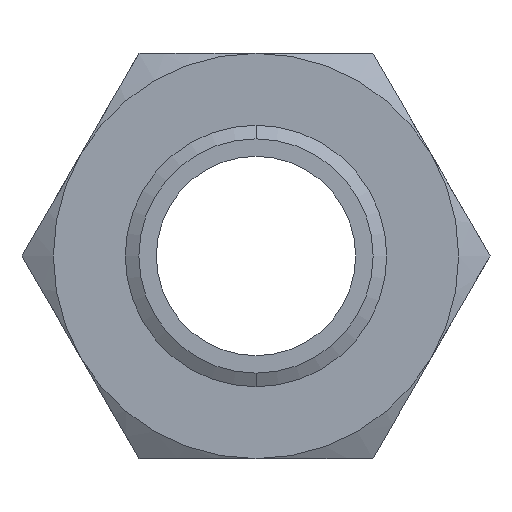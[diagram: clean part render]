
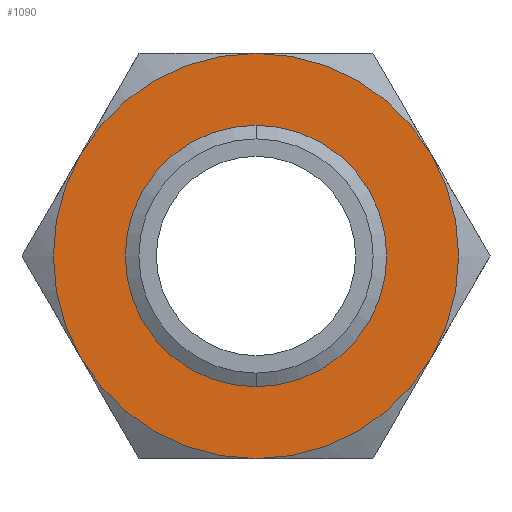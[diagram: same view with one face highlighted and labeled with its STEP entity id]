
A CAD part, front view. The second image highlights one B-rep face of the part: STEP entity #1090.
In plain terms, the highlighted planar face has unit normal (0, -1, 0).
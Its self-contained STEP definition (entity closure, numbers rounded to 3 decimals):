
#351 = ORIENTED_EDGE ( 'NONE', *, *, #704, .F. ) ;
#413 = VERTEX_POINT ( 'NONE', #1542 ) ;
#618 = ORIENTED_EDGE ( 'NONE', *, *, #1158, .F. ) ;
#704 = EDGE_CURVE ( 'NONE', #1179, #1159, #1763, .T. ) ;
#1011 = EDGE_LOOP ( 'NONE', ( #618, #351 ) ) ;
#1014 = EDGE_CURVE ( 'NONE', #1098, #1206, #1739, .T. ) ;
#1071 = EDGE_LOOP ( 'NONE', ( #1142, #1121, #1096, #1208, #1198, #1199 ) ) ;
#1090 = ADVANCED_FACE ( 'NONE', ( #1876, #1875 ), #1874, .F. ) ;
#1093 = VERTEX_POINT ( 'NONE', #1868 ) ;
#1096 = ORIENTED_EDGE ( 'NONE', *, *, #1117, .F. ) ;
#1098 = VERTEX_POINT ( 'NONE', #1859 ) ;
#1099 = VERTEX_POINT ( 'NONE', #1858 ) ;
#1117 = EDGE_CURVE ( 'NONE', #413, #1093, #1949, .T. ) ;
#1121 = ORIENTED_EDGE ( 'NONE', *, *, #1125, .F. ) ;
#1125 = EDGE_CURVE ( 'NONE', #1093, #1099, #1936, .T. ) ;
#1142 = ORIENTED_EDGE ( 'NONE', *, *, #1143, .F. ) ;
#1143 = EDGE_CURVE ( 'NONE', #1099, #1098, #1958, .T. ) ;
#1158 = EDGE_CURVE ( 'NONE', #1159, #1179, #1993, .T. ) ;
#1159 = VERTEX_POINT ( 'NONE', #1988 ) ;
#1179 = VERTEX_POINT ( 'NONE', #2066 ) ;
#1195 = EDGE_CURVE ( 'NONE', #1206, #1196, #2100, .T. ) ;
#1196 = VERTEX_POINT ( 'NONE', #2101 ) ;
#1198 = ORIENTED_EDGE ( 'NONE', *, *, #1195, .F. ) ;
#1199 = ORIENTED_EDGE ( 'NONE', *, *, #1014, .F. ) ;
#1205 = EDGE_CURVE ( 'NONE', #1196, #413, #2087, .T. ) ;
#1206 = VERTEX_POINT ( 'NONE', #2083 ) ;
#1208 = ORIENTED_EDGE ( 'NONE', *, *, #1205, .F. ) ;
#1542 = CARTESIAN_POINT ( 'NONE',  ( -67.117, 0., -38.75 ) ) ;
#1735 = DIRECTION ( 'NONE',  ( 0., 0., 1. ) ) ;
#1736 = DIRECTION ( 'NONE',  ( 0., 1., 0. ) ) ;
#1737 = CARTESIAN_POINT ( 'NONE',  ( 0., 0., 0. ) ) ;
#1738 = AXIS2_PLACEMENT_3D ( 'NONE', #1737, #1736, #1735 ) ;
#1739 = CIRCLE ( 'NONE', #1738, 77.5 ) ;
#1759 = DIRECTION ( 'NONE',  ( 0., 0., -1. ) ) ;
#1760 = DIRECTION ( 'NONE',  ( 0., -1., 0. ) ) ;
#1761 = CARTESIAN_POINT ( 'NONE',  ( 0., 0., 0. ) ) ;
#1762 = AXIS2_PLACEMENT_3D ( 'NONE', #1761, #1760, #1759 ) ;
#1763 = CIRCLE ( 'NONE', #1762, 44.804 ) ;
#1858 = CARTESIAN_POINT ( 'NONE',  ( 0., 0., 77.5 ) ) ;
#1859 = CARTESIAN_POINT ( 'NONE',  ( 67.117, 0., 38.75 ) ) ;
#1868 = CARTESIAN_POINT ( 'NONE',  ( -67.117, 0., 38.75 ) ) ;
#1870 = DIRECTION ( 'NONE',  ( 0., 0., 1. ) ) ;
#1871 = DIRECTION ( 'NONE',  ( 0., 1., 0. ) ) ;
#1872 = CARTESIAN_POINT ( 'NONE',  ( 44.745, 0., -77.5 ) ) ;
#1873 = AXIS2_PLACEMENT_3D ( 'NONE', #1872, #1871, #1870 ) ;
#1874 = PLANE ( 'NONE',  #1873 ) ;
#1875 = FACE_BOUND ( 'NONE', #1011, .T. ) ;
#1876 = FACE_OUTER_BOUND ( 'NONE', #1071, .T. ) ;
#1933 = DIRECTION ( 'NONE',  ( 0., 0., 1. ) ) ;
#1934 = DIRECTION ( 'NONE',  ( 0., 1., 0. ) ) ;
#1935 = AXIS2_PLACEMENT_3D ( 'NONE', #1942, #1934, #1933 ) ;
#1936 = CIRCLE ( 'NONE', #1935, 77.5 ) ;
#1942 = CARTESIAN_POINT ( 'NONE',  ( 0., 0., 0. ) ) ;
#1945 = DIRECTION ( 'NONE',  ( 0., 0., 1. ) ) ;
#1946 = DIRECTION ( 'NONE',  ( 0., 1., 0. ) ) ;
#1947 = CARTESIAN_POINT ( 'NONE',  ( 0., 0., 0. ) ) ;
#1948 = AXIS2_PLACEMENT_3D ( 'NONE', #1947, #1946, #1945 ) ;
#1949 = CIRCLE ( 'NONE', #1948, 77.5 ) ;
#1954 = DIRECTION ( 'NONE',  ( 0., 0., 1. ) ) ;
#1955 = DIRECTION ( 'NONE',  ( 0., 1., 0. ) ) ;
#1956 = CARTESIAN_POINT ( 'NONE',  ( 0., 0., 0. ) ) ;
#1957 = AXIS2_PLACEMENT_3D ( 'NONE', #1956, #1955, #1954 ) ;
#1958 = CIRCLE ( 'NONE', #1957, 77.5 ) ;
#1988 = CARTESIAN_POINT ( 'NONE',  ( 0., 0., -44.804 ) ) ;
#1989 = DIRECTION ( 'NONE',  ( 0., 0., -1. ) ) ;
#1990 = DIRECTION ( 'NONE',  ( 0., -1., 0. ) ) ;
#1991 = CARTESIAN_POINT ( 'NONE',  ( 0., 0., 0. ) ) ;
#1992 = AXIS2_PLACEMENT_3D ( 'NONE', #1991, #1990, #1989 ) ;
#1993 = CIRCLE ( 'NONE', #1992, 44.804 ) ;
#2066 = CARTESIAN_POINT ( 'NONE',  ( 0., 0., 44.804 ) ) ;
#2079 = DIRECTION ( 'NONE',  ( 0., 0., 1. ) ) ;
#2080 = DIRECTION ( 'NONE',  ( 0., 1., 0. ) ) ;
#2081 = CARTESIAN_POINT ( 'NONE',  ( 0., 0., 0. ) ) ;
#2082 = AXIS2_PLACEMENT_3D ( 'NONE', #2081, #2080, #2079 ) ;
#2083 = CARTESIAN_POINT ( 'NONE',  ( 67.117, 0., -38.75 ) ) ;
#2087 = CIRCLE ( 'NONE', #2082, 77.5 ) ;
#2096 = DIRECTION ( 'NONE',  ( 0., 0., 1. ) ) ;
#2097 = DIRECTION ( 'NONE',  ( 0., 1., 0. ) ) ;
#2098 = CARTESIAN_POINT ( 'NONE',  ( 0., 0., 0. ) ) ;
#2099 = AXIS2_PLACEMENT_3D ( 'NONE', #2098, #2097, #2096 ) ;
#2100 = CIRCLE ( 'NONE', #2099, 77.5 ) ;
#2101 = CARTESIAN_POINT ( 'NONE',  ( 0., 0., -77.5 ) ) ;
